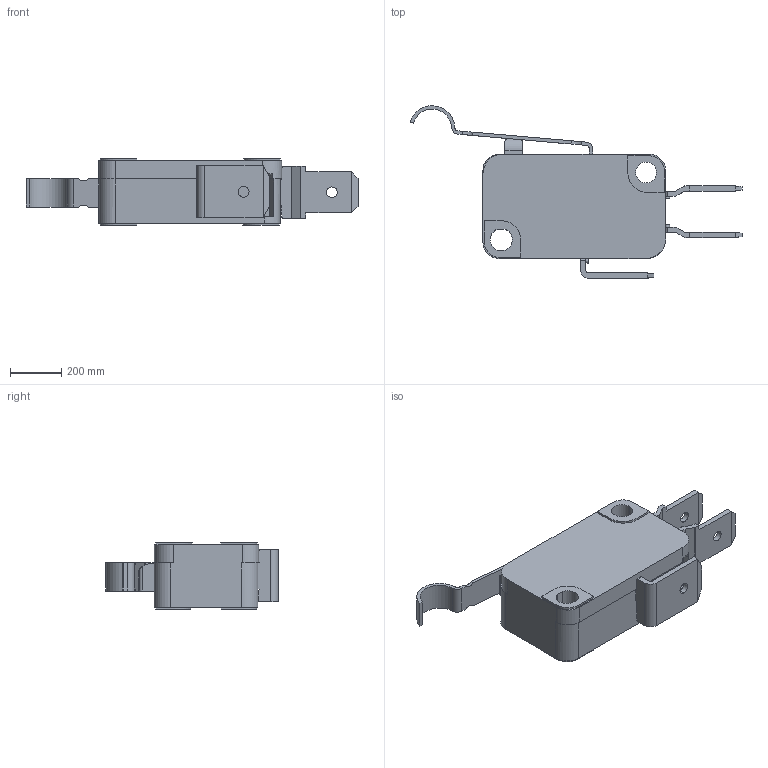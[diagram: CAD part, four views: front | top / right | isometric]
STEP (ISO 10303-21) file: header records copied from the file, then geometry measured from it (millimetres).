
FILE_DESCRIPTION((''),'2;1');
FILE_NAME('ASM0001_ASM','2016-06-02T',('Administrator'),(''),'PRO/ENGINEER BY PARAMETRIC TECHNOLOGY CORPORATION, 2012360','PRO/ENGINEER BY PARAMETRIC TECHNOLOGY CORPORATION, 2012360','');
FILE_SCHEMA(('CONFIG_CONTROL_DESIGN'));
Length unit declared in the file: inch
Products named in the file (1): ASM0001_ASM
Bounding box: 1292.58 x 671.18 x 259.08 mm (x, y, z)
Volume: 61779562.9 mm3; surface area: 2721226.9 mm2
Topology: 1 solids, 6 shells, 482 faces, 1353 edges, 888 vertices
Faces by surface type: plane 376, cylinder 101, torus 4, cone 1
Entity records: 15532 total; most frequent: CARTESIAN_POINT 2871, ORIENTED_EDGE 2706, DIRECTION 2511, EDGE_CURVE 1353, VECTOR 1101, LINE 1101, VERTEX_POINT 888, AXIS2_PLACEMENT_3D 705
